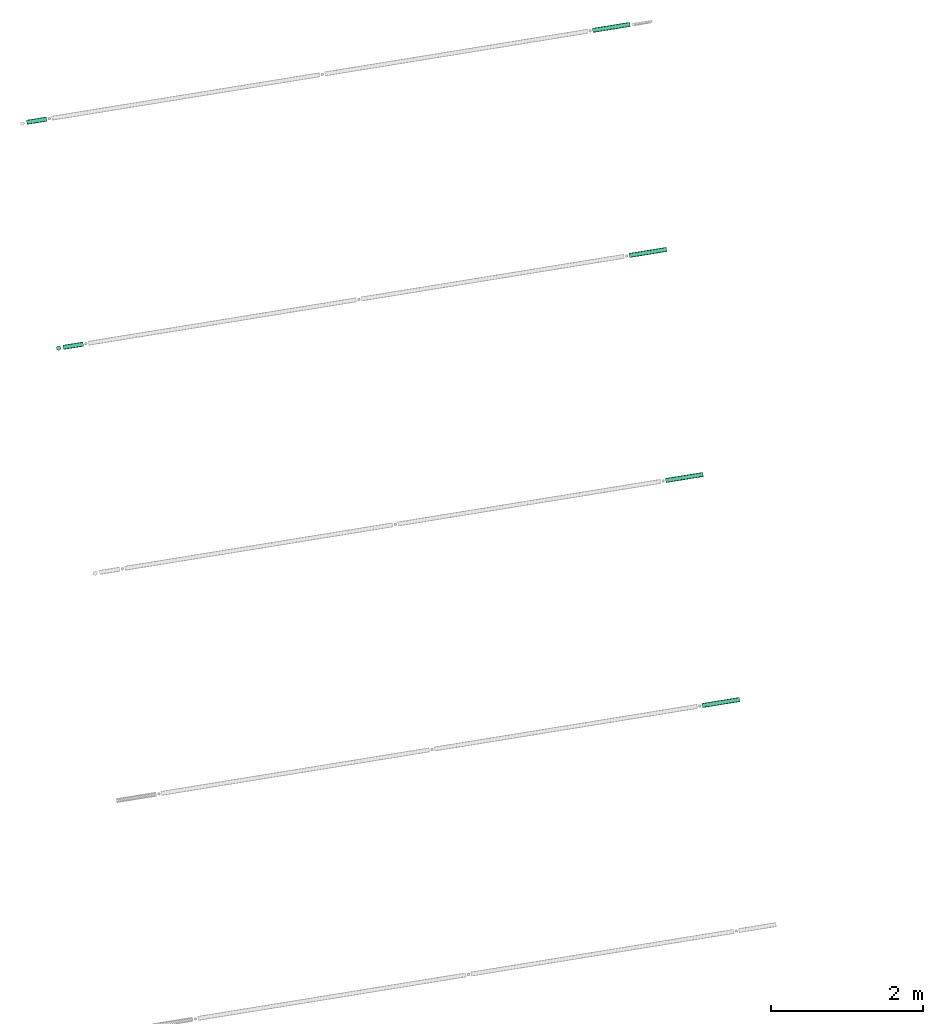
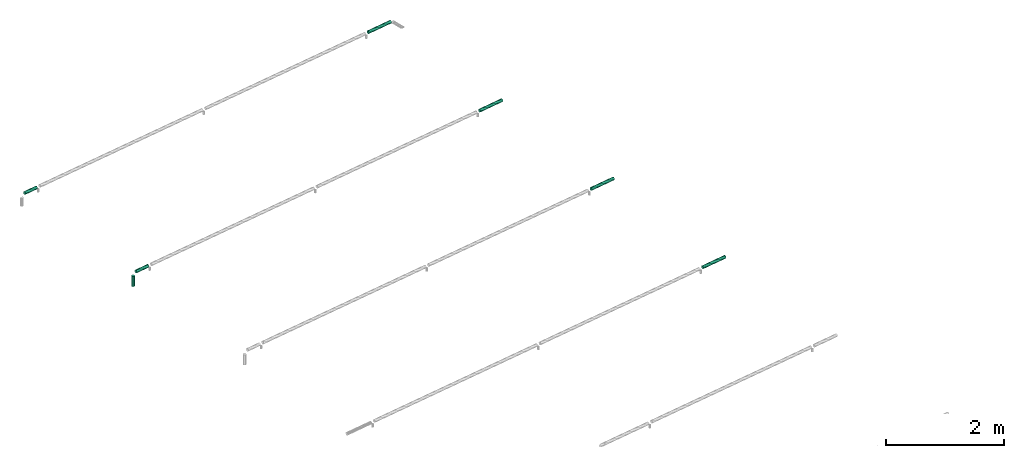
# One storey, part 3 of 10: 7 flow segments.
"""IFC2X3 building model written with IfcOpenShell, lengths in millimetres."""

from ifc_helpers import new_model, entity, si_unit, converted_unit, derived_unit, direction, frame, origin, origin_with_axes, origin_2d_with_axis, place, context, subcontext, project, spatial, circle, extrude, type_object, element, save


model = new_model("IFC2X3")

# Units and contexts
plan_context = context("Plan", 3, precision=1e-05, world=origin_with_axes())
model_context = context("Model", 3, precision=0.01, world=origin(), true_north=direction((6.12323399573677e-17, 1.0)))
body_context = subcontext(model_context, "Body", "Model", "MODEL_VIEW")
ifc_project = project(units=[converted_unit("PLANEANGLEUNIT", "DEGREE", entity("IfcPositiveLengthMeasure", 0.0174532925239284), si_unit("PLANEANGLEUNIT", "RADIAN"), dimensions=[0, 0, 0, 0, 0, 0, 0]), si_unit("AREAUNIT", "SQUARE_METRE"), si_unit("LENGTHUNIT", "METRE", prefix="MILLI"), si_unit("MASSUNIT", "GRAM", prefix="KILO"), si_unit("POWERUNIT", "WATT"), si_unit("PRESSUREUNIT", "PASCAL", prefix="KILO"), si_unit("FORCEUNIT", "NEWTON", prefix="KILO"), si_unit("ELECTRICVOLTAGEUNIT", "VOLT"), si_unit("ELECTRICCURRENTUNIT", "AMPERE"), si_unit("THERMODYNAMICTEMPERATUREUNIT", "DEGREE_CELSIUS"), si_unit("TIMEUNIT", "SECOND"), si_unit("VOLUMEUNIT", "CUBIC_METRE"), derived_unit("LINEARVELOCITYUNIT", [(si_unit("LENGTHUNIT", "METRE"), 1), (si_unit("TIMEUNIT", "SECOND"), -1)]), derived_unit("VOLUMETRICFLOWRATEUNIT", [(si_unit("VOLUMEUNIT", "CUBIC_METRE"), 1), (si_unit("TIMEUNIT", "SECOND"), -1)]), derived_unit("THERMALTRANSMITTANCEUNIT", [(si_unit("POWERUNIT", "WATT"), 1), (si_unit("THERMODYNAMICTEMPERATUREUNIT", "KELVIN"), -1), (si_unit("AREAUNIT", "SQUARE_METRE"), -1)]), derived_unit("SOUNDPRESSUREUNIT", [(si_unit("PRESSUREUNIT", "PASCAL"), 1)])], contexts=[model_context, plan_context])

# Site, building, storey
site_placement = place(None, frame((-0.00071070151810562, 0.00438415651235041, 0.0), z_axis=(0.0, 0.0, 1.0), x_axis=(-0.160236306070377, 0.987078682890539, 0.0)))
site = spatial("IfcSite", under=ifc_project, at=site_placement, Name="Default", CompositionType="ELEMENT")
building_placement = place(site_placement, origin_with_axes())
building = spatial("IfcBuilding", under=site, at=building_placement, CompositionType="ELEMENT")
storey_placement = place(building_placement, frame((0.0, 0.0, 55630.0), z_axis=(0.0, 0.0, 1.0), x_axis=(1.0, 0.0, 0.0)))
storey = spatial("IfcBuildingStorey", under=building, at=storey_placement, Name="Nivå E", CompositionType="ELEMENT", Elevation=55630.0)

# Flow segments
pipe_segment_type = type_object("IfcPipeSegmentType", Name="Pipe Types:Stålrør normaltykke", PredefinedType="NOTDEFINED")
flow_segment_1_placement = place(storey_placement, origin_with_axes())
element("IfcFlowSegment", 1, at=flow_segment_1_placement, inside=storey, type_object=pipe_segment_type, Name="Pipe Types:Stålrør normaltykke", ObjectType="Pipe Types:Stålrør normaltykke", context=body_context, shape_type="SweptSolid", body=[
    extrude(circle(Radius=30.1499996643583, at=origin_2d_with_axis()), frame((778377.619644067, -509209.960230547, 2600.0), z_axis=(0.0, 1.0, 0.0), x_axis=(1.0, 0.0, 0.0)), (0.0, 0.0, 1.0), 497.682988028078),
])
flow_segment_2_placement = place(storey_placement, origin_with_axes())
element("IfcFlowSegment", 2, at=flow_segment_2_placement, inside=storey, type_object=pipe_segment_type, Name="Pipe Types:Stålrør normaltykke", ObjectType="Pipe Types:Stålrør normaltykke", context=body_context, shape_type="SweptSolid", body=[
    extrude(circle(Radius=30.1499996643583, at=origin_2d_with_axis()), frame((781377.619644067, -509209.960230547, 2600.0), z_axis=(0.0, 1.0, 0.0), x_axis=(1.0, 0.0, 0.0)), (0.0, 0.0, 1.0), 497.682988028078),
])
flow_segment_3_placement = place(storey_placement, origin_with_axes())
element("IfcFlowSegment", 3, at=flow_segment_3_placement, inside=storey, type_object=pipe_segment_type, Name="Pipe Types:Stålrør normaltykke", ObjectType="Pipe Types:Stålrør normaltykke", context=body_context, shape_type="SweptSolid", body=[
    extrude(circle(Radius=30.1499996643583, at=origin_2d_with_axis()), frame((784377.619644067, -509209.960230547, 2600.0), z_axis=(0.0, 1.0, 0.0), x_axis=(1.0, 0.0, 0.0)), (0.0, 0.0, 1.0), 497.682988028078),
])
flow_segment_4_placement = place(storey_placement, origin_with_axes())
element("IfcFlowSegment", 4, at=flow_segment_4_placement, inside=storey, type_object=pipe_segment_type, Name="Pipe Types:Stålrør normaltykke", ObjectType="Pipe Types:Stålrør normaltykke", context=body_context, shape_type="SweptSolid", body=[
    extrude(circle(Radius=30.1499996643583, at=origin_2d_with_axis()), frame((787377.619644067, -509209.960230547, 2600.0), z_axis=(0.0, 1.0, 0.0), x_axis=(1.0, 0.0, 0.0)), (0.0, 0.0, 1.0), 497.682988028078),
])
flow_segment_5_placement = place(storey_placement, origin_with_axes())
element("IfcFlowSegment", 5, at=flow_segment_5_placement, inside=storey, type_object=pipe_segment_type, Name="Pipe Types:Stålrør normaltykke", ObjectType="Pipe Types:Stålrør normaltykke", context=body_context, shape_type="SweptSolid", body=[
    extrude(circle(Radius=30.1499996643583, at=origin_2d_with_axis()), frame((784377.619644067, -501434.677242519, 2600.0), z_axis=(0.0, 1.0, 0.0), x_axis=(-1.0, 0.0, 0.0)), (0.0, 0.0, 1.0), 268.282810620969),
])
flow_segment_6_placement = place(storey_placement, origin_with_axes())
element("IfcFlowSegment", 6, at=flow_segment_6_placement, inside=storey, type_object=pipe_segment_type, Name="Pipe Types:Stålrør normaltykke", ObjectType="Pipe Types:Stålrør normaltykke", context=body_context, shape_type="SweptSolid", body=[
    extrude(circle(Radius=30.1499996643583, at=origin_2d_with_axis()), frame((784377.619644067, -501105.994431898, 2330.4), z_axis=(0.0, 0.0, 1.0), x_axis=(-1.0, 0.0, 0.0)), (0.0, 0.0, 1.0), 209.199999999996),
])
flow_segment_7_placement = place(storey_placement, origin_with_axes())
element("IfcFlowSegment", 7, at=flow_segment_7_placement, inside=storey, type_object=pipe_segment_type, Name="Pipe Types:Stålrør normaltykke", ObjectType="Pipe Types:Stålrør normaltykke", context=body_context, shape_type="SweptSolid", body=[
    extrude(circle(Radius=30.1499996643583, at=origin_2d_with_axis()), frame((787377.619644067, -501434.677242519, 2600.0), z_axis=(0.0, 1.0, 0.0), x_axis=(1.0, 0.0, 0.0)), (0.0, 0.0, 1.0), 265.618721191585),
])

save(model, "model.ifc")
